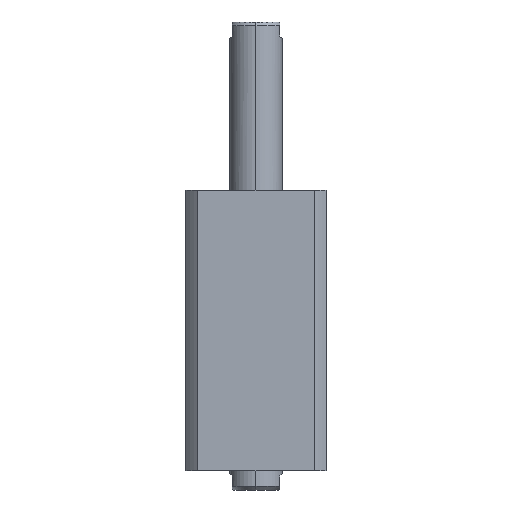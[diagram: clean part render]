
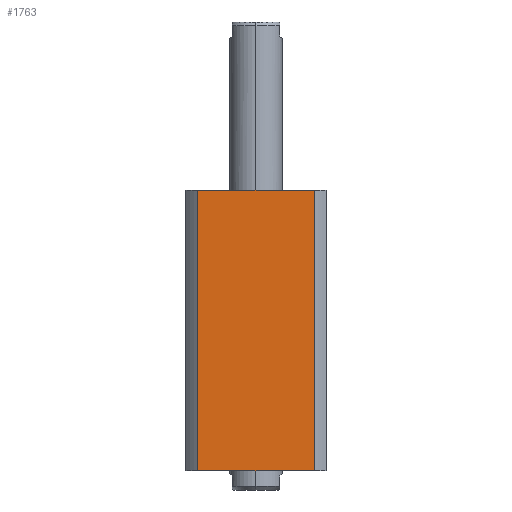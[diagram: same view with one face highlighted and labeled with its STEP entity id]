
A CAD part, left-side view. The second image highlights one B-rep face of the part: STEP entity #1763.
In plain terms, the highlighted planar face has unit normal (-1, 0, 0).
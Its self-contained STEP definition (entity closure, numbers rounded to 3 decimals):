
#308 = DIRECTION ( 'NONE',  ( 0., -1., 0. ) ) ;
#440 = VECTOR ( 'NONE', #6673, 1000. ) ;
#541 = FACE_OUTER_BOUND ( 'NONE', #6226, .T. ) ;
#612 = CARTESIAN_POINT ( 'NONE',  ( -40., 33.226, 80. ) ) ;
#829 = EDGE_CURVE ( 'NONE', #3943, #8204, #9520, .T. ) ;
#1115 = CARTESIAN_POINT ( 'NONE',  ( -40., 33.226, 80. ) ) ;
#1162 = ORIENTED_EDGE ( 'NONE', *, *, #829, .F. ) ;
#1378 = CARTESIAN_POINT ( 'NONE',  ( -40., 33.226, 80. ) ) ;
#1648 = VECTOR ( 'NONE', #308, 1000. ) ;
#1763 = ADVANCED_FACE ( 'NONE', ( #541 ), #9361, .F. ) ;
#1929 = LINE ( 'NONE', #2746, #8524 ) ;
#1987 = DIRECTION ( 'NONE',  ( 0., 0., -1. ) ) ;
#2100 = LINE ( 'NONE', #2962, #9537 ) ;
#2746 = CARTESIAN_POINT ( 'NONE',  ( -40., 33.226, 80. ) ) ;
#2962 = CARTESIAN_POINT ( 'NONE',  ( -40., -33.226, 80. ) ) ;
#3139 = ORIENTED_EDGE ( 'NONE', *, *, #9000, .T. ) ;
#3567 = CARTESIAN_POINT ( 'NONE',  ( -40., -33.226, -80. ) ) ;
#3943 = VERTEX_POINT ( 'NONE', #612 ) ;
#4637 = EDGE_CURVE ( 'NONE', #7304, #6453, #8970, .T. ) ;
#5544 = DIRECTION ( 'NONE',  ( 0., 0., -1. ) ) ;
#5599 = DIRECTION ( 'NONE',  ( 1., 0., 0. ) ) ;
#5633 = DIRECTION ( 'NONE',  ( 0., 1., 0. ) ) ;
#6226 = EDGE_LOOP ( 'NONE', ( #8338, #7414, #1162, #3139 ) ) ;
#6453 = VERTEX_POINT ( 'NONE', #3567 ) ;
#6673 = DIRECTION ( 'NONE',  ( 0., -1., 0. ) ) ;
#6744 = EDGE_CURVE ( 'NONE', #8204, #6453, #2100, .T. ) ;
#7304 = VERTEX_POINT ( 'NONE', #7922 ) ;
#7414 = ORIENTED_EDGE ( 'NONE', *, *, #6744, .F. ) ;
#7549 = CARTESIAN_POINT ( 'NONE',  ( -40., -33.226, 80. ) ) ;
#7922 = CARTESIAN_POINT ( 'NONE',  ( -40., 33.226, -80. ) ) ;
#7944 = CARTESIAN_POINT ( 'NONE',  ( -40., 33.226, -80. ) ) ;
#8204 = VERTEX_POINT ( 'NONE', #7549 ) ;
#8338 = ORIENTED_EDGE ( 'NONE', *, *, #4637, .T. ) ;
#8393 = AXIS2_PLACEMENT_3D ( 'NONE', #1115, #5599, #5633 ) ;
#8524 = VECTOR ( 'NONE', #1987, 1000. ) ;
#8970 = LINE ( 'NONE', #7944, #1648 ) ;
#9000 = EDGE_CURVE ( 'NONE', #3943, #7304, #1929, .T. ) ;
#9361 = PLANE ( 'NONE',  #8393 ) ;
#9520 = LINE ( 'NONE', #1378, #440 ) ;
#9537 = VECTOR ( 'NONE', #5544, 1000. ) ;
